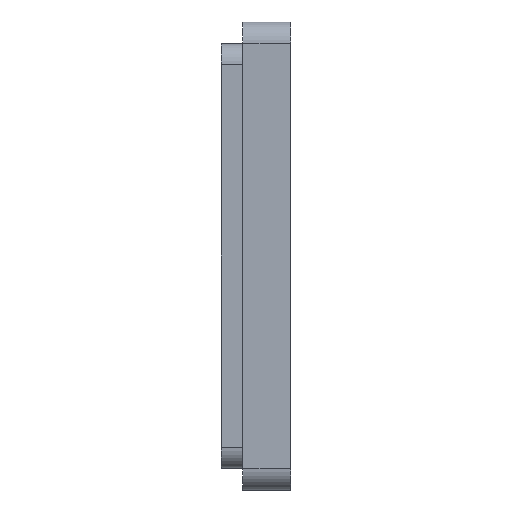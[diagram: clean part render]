
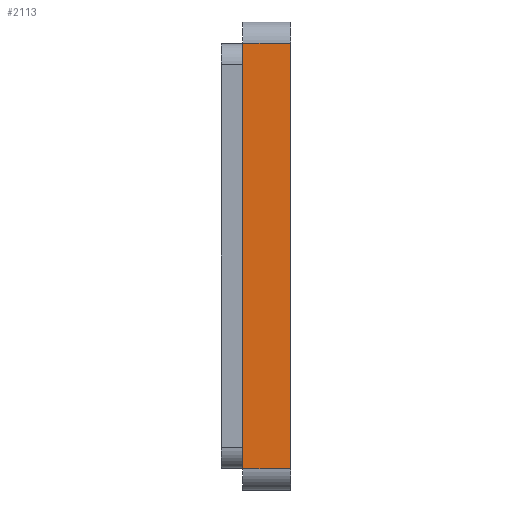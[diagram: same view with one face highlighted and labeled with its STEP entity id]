
A CAD part, left-side view. The second image highlights one B-rep face of the part: STEP entity #2113.
In plain terms, the highlighted planar face has unit normal (-1, 0, 0).
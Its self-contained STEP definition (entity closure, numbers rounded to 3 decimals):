
#662 = ORIENTED_EDGE ( 'NONE', *, *, #7546, .T. ) ;
#847 = EDGE_LOOP ( 'NONE', ( #2098, #662, #5393, #7620 ) ) ;
#924 = VECTOR ( 'NONE', #1570, 1000. ) ;
#958 = DIRECTION ( 'NONE',  ( 0., -1., 0. ) ) ;
#1435 = CARTESIAN_POINT ( 'NONE',  ( -46.5, -3., 20. ) ) ;
#1570 = DIRECTION ( 'NONE',  ( 0., 0., -1. ) ) ;
#1722 = CARTESIAN_POINT ( 'NONE',  ( -46.5, 1.5, 20. ) ) ;
#2098 = ORIENTED_EDGE ( 'NONE', *, *, #3722, .F. ) ;
#2113 = ADVANCED_FACE ( 'NONE', ( #3166 ), #6648, .F. ) ;
#2477 = VECTOR ( 'NONE', #8222, 1000. ) ;
#2754 = DIRECTION ( 'NONE',  ( 0., 0., -1. ) ) ;
#3002 = LINE ( 'NONE', #10236, #924 ) ;
#3166 = FACE_OUTER_BOUND ( 'NONE', #847, .T. ) ;
#3528 = VERTEX_POINT ( 'NONE', #9868 ) ;
#3722 = EDGE_CURVE ( 'NONE', #4191, #3528, #3002, .T. ) ;
#3952 = VECTOR ( 'NONE', #958, 1000. ) ;
#4191 = VERTEX_POINT ( 'NONE', #1435 ) ;
#4253 = CARTESIAN_POINT ( 'NONE',  ( -46.5, 1.5, 22. ) ) ;
#4824 = CARTESIAN_POINT ( 'NONE',  ( -46.5, -3., -20. ) ) ;
#5054 = DIRECTION ( 'NONE',  ( 1., 0., 0. ) ) ;
#5393 = ORIENTED_EDGE ( 'NONE', *, *, #7208, .T. ) ;
#6648 = PLANE ( 'NONE',  #6656 ) ;
#6656 = AXIS2_PLACEMENT_3D ( 'NONE', #8177, #5054, #9833 ) ;
#6889 = VECTOR ( 'NONE', #2754, 1000. ) ;
#7208 = EDGE_CURVE ( 'NONE', #8609, #8225, #9789, .T. ) ;
#7546 = EDGE_CURVE ( 'NONE', #4191, #8609, #10019, .T. ) ;
#7620 = ORIENTED_EDGE ( 'NONE', *, *, #8564, .T. ) ;
#8177 = CARTESIAN_POINT ( 'NONE',  ( -46.5, -3., 22. ) ) ;
#8222 = DIRECTION ( 'NONE',  ( 0., 1., 0. ) ) ;
#8225 = VERTEX_POINT ( 'NONE', #8365 ) ;
#8365 = CARTESIAN_POINT ( 'NONE',  ( -46.5, 1.5, -20. ) ) ;
#8564 = EDGE_CURVE ( 'NONE', #8225, #3528, #10253, .T. ) ;
#8609 = VERTEX_POINT ( 'NONE', #1722 ) ;
#9072 = CARTESIAN_POINT ( 'NONE',  ( -46.5, -3., 20. ) ) ;
#9789 = LINE ( 'NONE', #4253, #6889 ) ;
#9833 = DIRECTION ( 'NONE',  ( 0., 0., -1. ) ) ;
#9868 = CARTESIAN_POINT ( 'NONE',  ( -46.5, -3., -20. ) ) ;
#10019 = LINE ( 'NONE', #9072, #2477 ) ;
#10236 = CARTESIAN_POINT ( 'NONE',  ( -46.5, -3., 22. ) ) ;
#10253 = LINE ( 'NONE', #4824, #3952 ) ;
